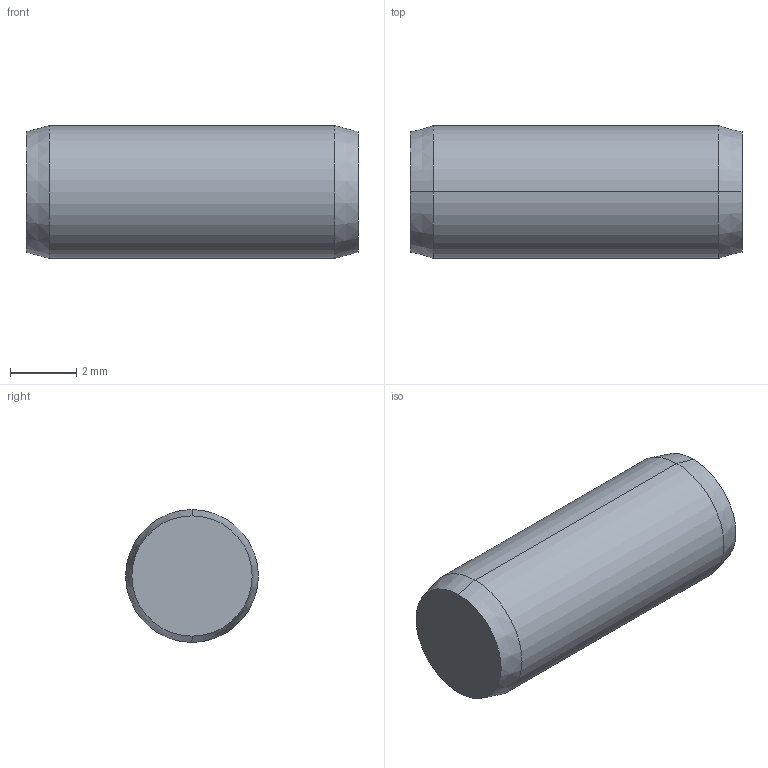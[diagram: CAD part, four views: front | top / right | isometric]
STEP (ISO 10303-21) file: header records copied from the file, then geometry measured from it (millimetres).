
FILE_DESCRIPTION (( 'STEP AP203' ), '1' );
FILE_NAME ('Default.step', '2017-06-14T07:49:22', ( 'User' ), ( '' ), 'SwSTEP 2.0', 'SolidWorks 2009', '' );
FILE_SCHEMA (( 'CONFIG_CONTROL_DESIGN' ));
Length unit declared in the file: millimetre
Products named in the file (1): Default
Bounding box: 10 x 4 x 4 mm (x, y, z)
Volume: 124.1 mm3; surface area: 146.1 mm2
Topology: 1 solids, 1 shells, 8 faces, 14 edges, 8 vertices
Faces by surface type: cone 4, cylinder 2, plane 2
Entity records: 271 total; most frequent: DIRECTION 40, CARTESIAN_POINT 31, ORIENTED_EDGE 28, AXIS2_PLACEMENT_3D 17, EDGE_CURVE 14, PERSON_AND_ORGANIZATION 8, EDGE_LOOP 8, VERTEX_POINT 8
